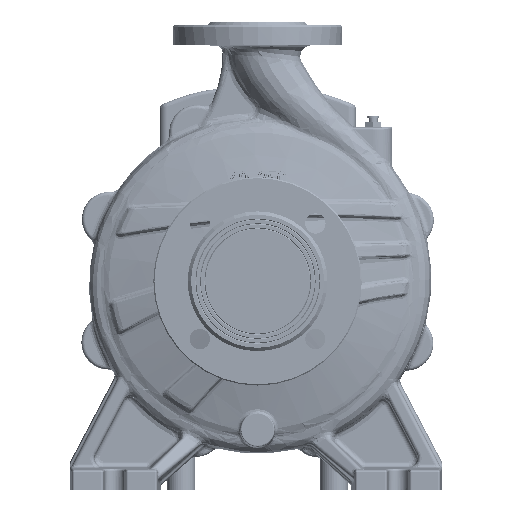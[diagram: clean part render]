
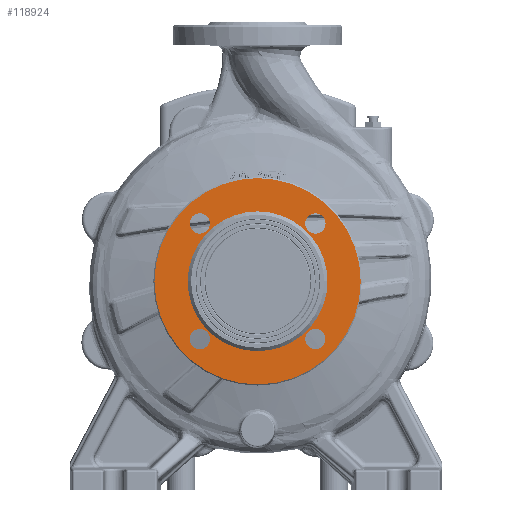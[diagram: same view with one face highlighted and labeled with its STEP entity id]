
A CAD part, left-side view. The second image highlights one B-rep face of the part: STEP entity #118924.
In plain terms, the highlighted planar face has unit normal (-1, 0, 0).
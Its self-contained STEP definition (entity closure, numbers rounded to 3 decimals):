
#2200 = DIRECTION ( 'NONE',  ( 0., 0., 1. ) ) ;
#10057 = DIRECTION ( 'NONE',  ( -1., 0., 0. ) ) ;
#10848 = DIRECTION ( 'NONE',  ( 1., 0., 0. ) ) ;
#12221 = DIRECTION ( 'NONE',  ( 0., 0., 1. ) ) ;
#12270 = ORIENTED_EDGE ( 'NONE', *, *, #173023, .T. ) ;
#12414 = DIRECTION ( 'NONE',  ( 1., 0., 0. ) ) ;
#16469 = CARTESIAN_POINT ( 'NONE',  ( -240.245, -51.265, -42.265 ) ) ;
#17747 = DIRECTION ( 'NONE',  ( 0., 1., 0. ) ) ;
#17798 = AXIS2_PLACEMENT_3D ( 'NONE', #163875, #49318, #17747 ) ;
#17893 = CARTESIAN_POINT ( 'NONE',  ( -240.245, 51.265, -60.265 ) ) ;
#18535 = EDGE_CURVE ( 'NONE', #52735, #36334, #72604, .T. ) ;
#18665 = ORIENTED_EDGE ( 'NONE', *, *, #18535, .F. ) ;
#19117 = EDGE_CURVE ( 'NONE', #32249, #157054, #173575, .T. ) ;
#19618 = CIRCLE ( 'NONE', #170771, 9. ) ;
#21293 = VERTEX_POINT ( 'NONE', #73179 ) ;
#21373 = VERTEX_POINT ( 'NONE', #98273 ) ;
#24214 = VERTEX_POINT ( 'NONE', #97202 ) ;
#25711 = VERTEX_POINT ( 'NONE', #17893 ) ;
#26163 = CARTESIAN_POINT ( 'NONE',  ( -240.245, 0., -62. ) ) ;
#26626 = AXIS2_PLACEMENT_3D ( 'NONE', #172877, #141366, #28873 ) ;
#28873 = DIRECTION ( 'NONE',  ( 0., 0., 1. ) ) ;
#30272 = CARTESIAN_POINT ( 'NONE',  ( -240.245, 0., 0. ) ) ;
#32249 = VERTEX_POINT ( 'NONE', #139798 ) ;
#33278 = ORIENTED_EDGE ( 'NONE', *, *, #146297, .T. ) ;
#33555 = FACE_BOUND ( 'NONE', #116169, .T. ) ;
#34084 = ORIENTED_EDGE ( 'NONE', *, *, #178543, .F. ) ;
#36334 = VERTEX_POINT ( 'NONE', #114825 ) ;
#36765 = ORIENTED_EDGE ( 'NONE', *, *, #152067, .F. ) ;
#39405 = CIRCLE ( 'NONE', #156940, 91.5 ) ;
#41351 = DIRECTION ( 'NONE',  ( 0., 0., 1. ) ) ;
#42426 = CIRCLE ( 'NONE', #149896, 62. ) ;
#46330 = EDGE_CURVE ( 'NONE', #25711, #24214, #19618, .T. ) ;
#48103 = CARTESIAN_POINT ( 'NONE',  ( -240.245, 0., 0. ) ) ;
#49318 = DIRECTION ( 'NONE',  ( -1., 0., 0. ) ) ;
#50464 = VERTEX_POINT ( 'NONE', #180537 ) ;
#52735 = VERTEX_POINT ( 'NONE', #161530 ) ;
#56811 = EDGE_LOOP ( 'NONE', ( #34084, #142538 ) ) ;
#63148 = EDGE_LOOP ( 'NONE', ( #33278, #12270 ) ) ;
#63804 = AXIS2_PLACEMENT_3D ( 'NONE', #193038, #70742, #65806 ) ;
#64410 = CARTESIAN_POINT ( 'NONE',  ( -240.245, 51.265, -51.265 ) ) ;
#65806 = DIRECTION ( 'NONE',  ( 0., 0., 1. ) ) ;
#66109 = FACE_BOUND ( 'NONE', #63148, .T. ) ;
#66896 = AXIS2_PLACEMENT_3D ( 'NONE', #196474, #10057, #116632 ) ;
#67089 = CIRCLE ( 'NONE', #63804, 9. ) ;
#70742 = DIRECTION ( 'NONE',  ( -1., 0., 0. ) ) ;
#72556 = CARTESIAN_POINT ( 'NONE',  ( -240.245, -51.265, -51.265 ) ) ;
#72604 = CIRCLE ( 'NONE', #143159, 9. ) ;
#73179 = CARTESIAN_POINT ( 'NONE',  ( -240.245, 0., 62. ) ) ;
#75326 = EDGE_CURVE ( 'NONE', #197642, #21373, #124083, .T. ) ;
#76073 = VERTEX_POINT ( 'NONE', #16469 ) ;
#77856 = CARTESIAN_POINT ( 'NONE',  ( -240.245, 0., 91.5 ) ) ;
#82952 = AXIS2_PLACEMENT_3D ( 'NONE', #154905, #10848, #41351 ) ;
#86024 = ORIENTED_EDGE ( 'NONE', *, *, #101536, .F. ) ;
#87114 = EDGE_LOOP ( 'NONE', ( #196608, #107741 ) ) ;
#92050 = AXIS2_PLACEMENT_3D ( 'NONE', #72556, #151416, #168214 ) ;
#93219 = CIRCLE ( 'NONE', #136892, 9. ) ;
#94949 = DIRECTION ( 'NONE',  ( -1., 0., 0. ) ) ;
#97202 = CARTESIAN_POINT ( 'NONE',  ( -240.245, 51.265, -42.265 ) ) ;
#97699 = FACE_OUTER_BOUND ( 'NONE', #100764, .T. ) ;
#98273 = CARTESIAN_POINT ( 'NONE',  ( -240.245, 51.265, 42.265 ) ) ;
#99782 = FACE_BOUND ( 'NONE', #200767, .T. ) ;
#100558 = CIRCLE ( 'NONE', #66896, 9. ) ;
#100764 = EDGE_LOOP ( 'NONE', ( #187041, #195791 ) ) ;
#100809 = FACE_BOUND ( 'NONE', #56811, .T. ) ;
#101536 = EDGE_CURVE ( 'NONE', #76073, #50464, #182633, .T. ) ;
#107741 = ORIENTED_EDGE ( 'NONE', *, *, #111070, .F. ) ;
#108447 = EDGE_CURVE ( 'NONE', #36334, #52735, #93219, .T. ) ;
#110008 = DIRECTION ( 'NONE',  ( -1., 0., 0. ) ) ;
#111070 = EDGE_CURVE ( 'NONE', #21373, #197642, #100558, .T. ) ;
#112272 = DIRECTION ( 'NONE',  ( 1., 0., 0. ) ) ;
#112310 = CARTESIAN_POINT ( 'NONE',  ( -240.245, 51.265, 60.265 ) ) ;
#114825 = CARTESIAN_POINT ( 'NONE',  ( -240.245, -51.265, 60.265 ) ) ;
#116169 = EDGE_LOOP ( 'NONE', ( #191337, #18665 ) ) ;
#116632 = DIRECTION ( 'NONE',  ( 0., 0., 1. ) ) ;
#117661 = CARTESIAN_POINT ( 'NONE',  ( -240.245, -51.265, 51.265 ) ) ;
#118924 = ADVANCED_FACE ( 'NONE', ( #97699, #100809, #99782, #33555, #131322, #66109 ), #161795, .T. ) ;
#124083 = CIRCLE ( 'NONE', #26626, 9. ) ;
#125051 = CIRCLE ( 'NONE', #151849, 9. ) ;
#131322 = FACE_BOUND ( 'NONE', #87114, .T. ) ;
#136892 = AXIS2_PLACEMENT_3D ( 'NONE', #164885, #198504, #167992 ) ;
#139798 = CARTESIAN_POINT ( 'NONE',  ( -240.245, 0., -91.5 ) ) ;
#141366 = DIRECTION ( 'NONE',  ( -1., 0., 0. ) ) ;
#142538 = ORIENTED_EDGE ( 'NONE', *, *, #46330, .F. ) ;
#142570 = CARTESIAN_POINT ( 'NONE',  ( -240.245, 51.265, -51.265 ) ) ;
#143159 = AXIS2_PLACEMENT_3D ( 'NONE', #117661, #184819, #181706 ) ;
#146297 = EDGE_CURVE ( 'NONE', #21293, #189486, #42426, .T. ) ;
#149896 = AXIS2_PLACEMENT_3D ( 'NONE', #48103, #112272, #160599 ) ;
#151416 = DIRECTION ( 'NONE',  ( -1., 0., 0. ) ) ;
#151849 = AXIS2_PLACEMENT_3D ( 'NONE', #142570, #110008, #12221 ) ;
#152067 = EDGE_CURVE ( 'NONE', #50464, #76073, #67089, .T. ) ;
#154905 = CARTESIAN_POINT ( 'NONE',  ( -240.245, 0., 0. ) ) ;
#155994 = DIRECTION ( 'NONE',  ( 0., 0., 1. ) ) ;
#156940 = AXIS2_PLACEMENT_3D ( 'NONE', #160979, #196650, #2200 ) ;
#157054 = VERTEX_POINT ( 'NONE', #77856 ) ;
#160599 = DIRECTION ( 'NONE',  ( 0., 0., 1. ) ) ;
#160979 = CARTESIAN_POINT ( 'NONE',  ( -240.245, 0., 0. ) ) ;
#161530 = CARTESIAN_POINT ( 'NONE',  ( -240.245, -51.265, 42.265 ) ) ;
#161795 = PLANE ( 'NONE',  #17798 ) ;
#163875 = CARTESIAN_POINT ( 'NONE',  ( -240.245, 0., -62. ) ) ;
#164488 = CIRCLE ( 'NONE', #177971, 62. ) ;
#164885 = CARTESIAN_POINT ( 'NONE',  ( -240.245, -51.265, 51.265 ) ) ;
#167992 = DIRECTION ( 'NONE',  ( 0., 0., 1. ) ) ;
#168214 = DIRECTION ( 'NONE',  ( 0., 0., 1. ) ) ;
#170771 = AXIS2_PLACEMENT_3D ( 'NONE', #64410, #94949, #155994 ) ;
#172877 = CARTESIAN_POINT ( 'NONE',  ( -240.245, 51.265, 51.265 ) ) ;
#173023 = EDGE_CURVE ( 'NONE', #189486, #21293, #164488, .T. ) ;
#173575 = CIRCLE ( 'NONE', #82952, 91.5 ) ;
#177971 = AXIS2_PLACEMENT_3D ( 'NONE', #30272, #12414, #205813 ) ;
#178543 = EDGE_CURVE ( 'NONE', #24214, #25711, #125051, .T. ) ;
#180537 = CARTESIAN_POINT ( 'NONE',  ( -240.245, -51.265, -60.265 ) ) ;
#181706 = DIRECTION ( 'NONE',  ( 0., 0., 1. ) ) ;
#182633 = CIRCLE ( 'NONE', #92050, 9. ) ;
#184819 = DIRECTION ( 'NONE',  ( -1., 0., 0. ) ) ;
#187041 = ORIENTED_EDGE ( 'NONE', *, *, #195398, .F. ) ;
#189486 = VERTEX_POINT ( 'NONE', #26163 ) ;
#191337 = ORIENTED_EDGE ( 'NONE', *, *, #108447, .F. ) ;
#193038 = CARTESIAN_POINT ( 'NONE',  ( -240.245, -51.265, -51.265 ) ) ;
#195398 = EDGE_CURVE ( 'NONE', #157054, #32249, #39405, .T. ) ;
#195791 = ORIENTED_EDGE ( 'NONE', *, *, #19117, .F. ) ;
#196474 = CARTESIAN_POINT ( 'NONE',  ( -240.245, 51.265, 51.265 ) ) ;
#196608 = ORIENTED_EDGE ( 'NONE', *, *, #75326, .F. ) ;
#196650 = DIRECTION ( 'NONE',  ( 1., 0., 0. ) ) ;
#197642 = VERTEX_POINT ( 'NONE', #112310 ) ;
#198504 = DIRECTION ( 'NONE',  ( -1., 0., 0. ) ) ;
#200767 = EDGE_LOOP ( 'NONE', ( #86024, #36765 ) ) ;
#205813 = DIRECTION ( 'NONE',  ( 0., 0., 1. ) ) ;
